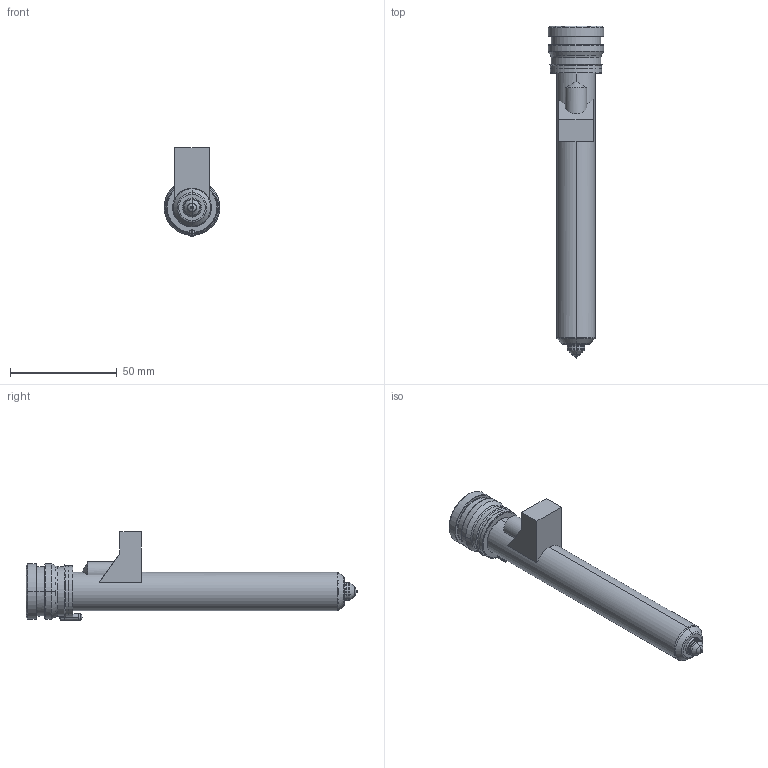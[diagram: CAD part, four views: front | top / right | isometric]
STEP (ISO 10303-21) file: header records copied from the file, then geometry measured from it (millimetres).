
FILE_DESCRIPTION((''),'2;1');
FILE_NAME('MPN-08-24-VX8-136-M','2026-02-05T13:31:25',('UPTIO'),('Thermoplay S.p.A.'),'CREO PARAMETRIC BY PTC INC, 2023494','CREO PARAMETRIC BY PTC INC, 2023494','');
FILE_SCHEMA(('CONFIG_CONTROL_DESIGN','SHAPE_APPEARANCE_LAYERS_GROUPS'));
Length unit declared in the file: millimetre
Products named in the file (1): MPN-08-24-VX8-136-M
Bounding box: 26 x 155.5 x 41.5 mm (x, y, z)
Volume: 29594.6 mm3; surface area: 39375.9 mm2
Topology: 2 solids, 3 shells, 529 faces, 1372 edges, 842 vertices
Faces by surface type: cylinder 174, plane 143, bspline 77, torus 60, cone 60, sphere 9, extrusion 6
Entity records: 27371 total; most frequent: CARTESIAN_POINT 11850, ORIENTED_EDGE 2726, DIRECTION 2495, EDGE_CURVE 1363, AXIS2_PLACEMENT_3D 975, VERTEX_POINT 842, EDGE_LOOP 559, VECTOR 545
